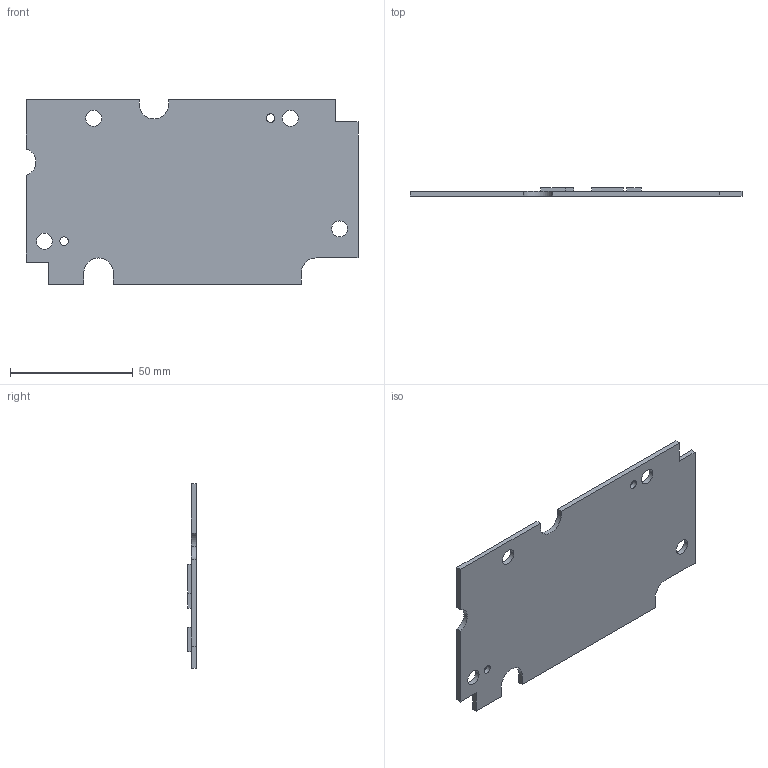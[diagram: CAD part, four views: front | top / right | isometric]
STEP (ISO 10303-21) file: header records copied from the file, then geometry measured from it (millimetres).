
FILE_DESCRIPTION((''),'2;1');
FILE_NAME('HEA_SPREADER_BOTTOM_SOC_ASSY_ASM','2020-08-14T',('G6003023'),(''),'PRO/ENGINEER BY PARAMETRIC TECHNOLOGY CORPORATION, 2013150','PRO/ENGINEER BY PARAMETRIC TECHNOLOGY CORPORATION, 2013150','');
FILE_SCHEMA(('CONFIG_CONTROL_DESIGN'));
Length unit declared in the file: millimetre
Products named in the file (4): HEATSPREADER_SOC_BOTTOM; THERMAL_PAD_SOC_BOTTOM_01-K5; THERMAL_PAD_SOC_BOTTOM_02-K5; HEA_SPREADER_BOTTOM_SOC_ASSY_ASM
Assembly tree (6 placements, depth 2):
  HEA_SPREADER_BOTTOM_SOC_ASSY_ASM
    HEATSPREADER_SOC_BOTTOM
    THERMAL_PAD_SOC_BOTTOM_01-K5
    THERMAL_PAD_SOC_BOTTOM_02-K5  x4
Bounding box: 135 x 3.5 x 75 mm (x, y, z)
Volume: 19308.4 mm3; surface area: 20912.7 mm2
Topology: 6 solids, 6 shells, 101 faces, 252 edges, 168 vertices
Faces by surface type: plane 84, cylinder 17
Entity records: 2680 total; most frequent: CARTESIAN_POINT 453, DIRECTION 436, ORIENTED_EDGE 432, EDGE_CURVE 216, VECTOR 182, LINE 182, VERTEX_POINT 144, AXIS2_PLACEMENT_3D 127
